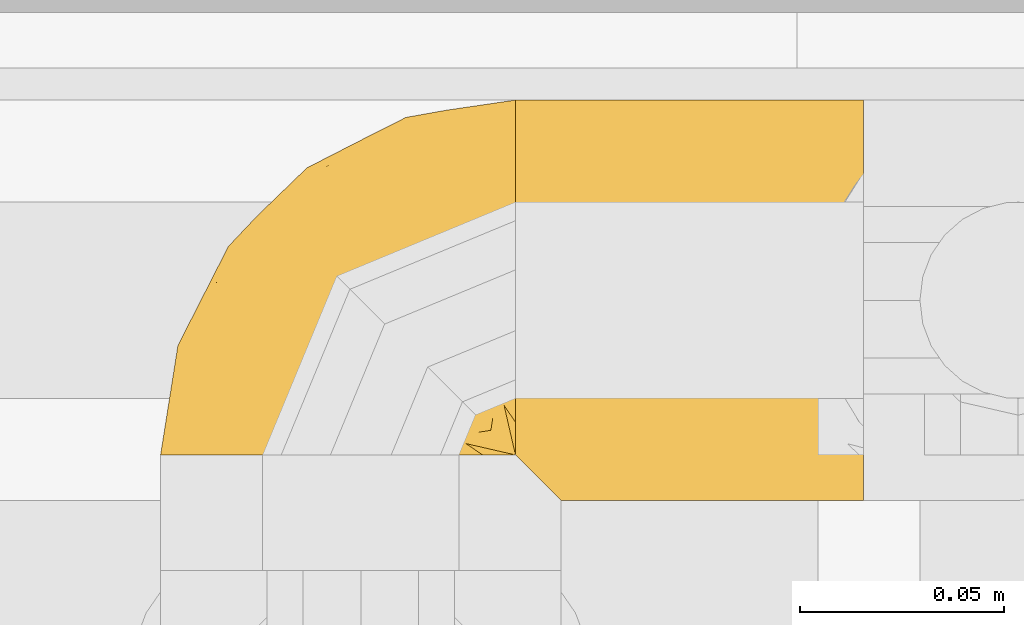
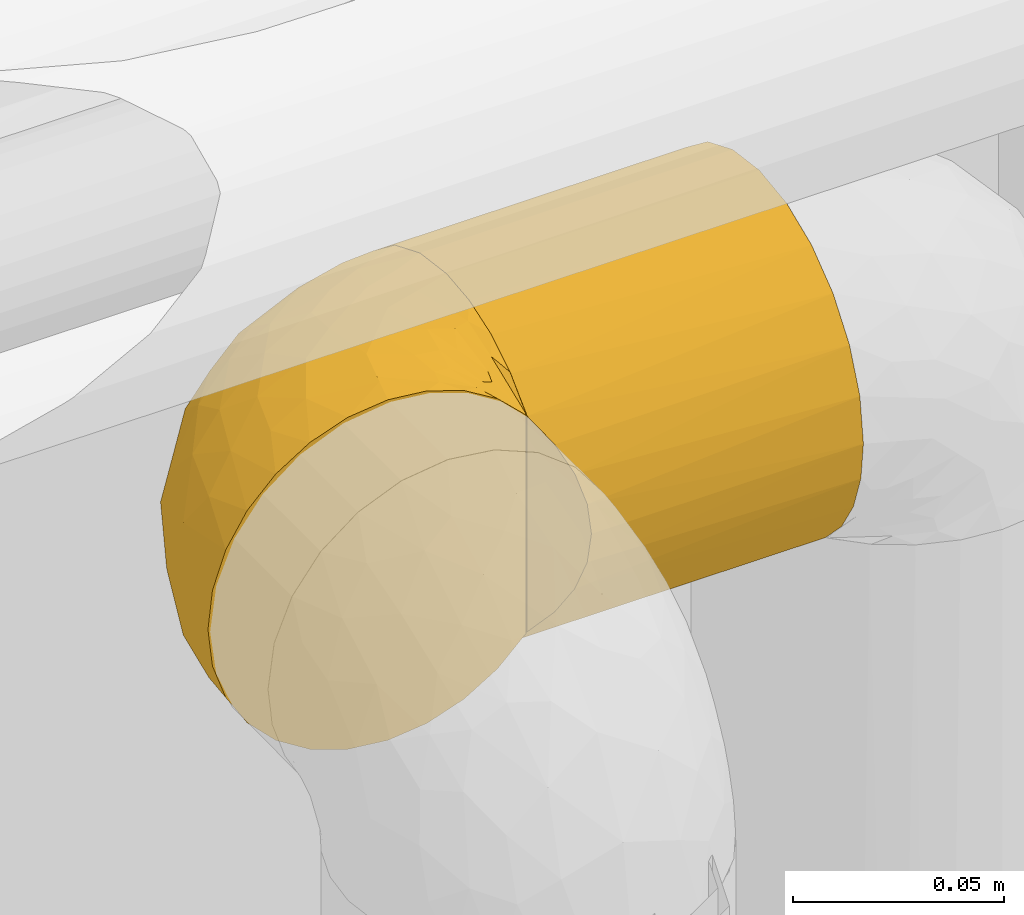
# One storey, part 52 of 94: 2 coverings.
"""IFC2X3 building model written with IfcOpenShell, lengths in millimetres."""

import ifcopenshell
import ifcopenshell.guid

model = None  # the IFC model being written
_history = None  # IfcOwnerHistory: only IFC2X3 demands one
_inside = {}  # id of a spatial element -> (the spatial element, [elements in it])
_under = {}  # id of a project, library or spatial element -> (it, [spatial elements below it])
_declared = {}  # id of a project -> (the project, [libraries it declares])
_typed = {}  # id of a type object -> (the type object, [elements of that type])
_made_of = {}  # id of a material, layer set ... -> (it, [elements and type objects made of it])


def new_model(schema):
    """Start an empty IFC model of exactly this schema.

    Asked for "IFC4X3", IfcOpenShell would pick the latest addendum, in which some entities
    have other attributes; the version numbers below select the first issue.
    IFC2X3 requires an IfcOwnerHistory on every rooted entity: one is made here for all.
    """
    global model, _history
    if schema == "IFC4X3":
        model = ifcopenshell.file(schema_version=(4, 3, 0, 0))
    else:
        model = ifcopenshell.file(schema=schema)
    _inside.clear()
    _under.clear()
    _declared.clear()
    _typed.clear()
    _made_of.clear()
    _history = None
    if model.schema == "IFC2X3":
        org = make("IfcOrganization", Name="unknown")
        user = make(
            "IfcPersonAndOrganization",
            ThePerson=make("IfcPerson", FamilyName="unknown"),
            TheOrganization=org,
        )
        app = make(
            "IfcApplication",
            ApplicationDeveloper=org,
            Version="unknown",
            ApplicationFullName="unknown",
            ApplicationIdentifier="unknown",
        )
        _history = make(
            "IfcOwnerHistory",
            OwningUser=user,
            OwningApplication=app,
            ChangeAction="ADDED",
            CreationDate=0,
        )
    return model


def make(cls, **values):
    """One entity of the class cls with the attributes given. An attribute that is None is left unset."""
    return model.create_entity(
        cls, **{name: value for name, value in values.items() if value is not None}
    )


def entity(cls, *values):
    """Any entity or typed value of the class cls, its attributes in the order of the schema. None: left unset."""
    e = model.create_entity(cls)
    for i, value in enumerate(values):
        if value is not None:
            e[i] = value
    return e


def rooted(cls, **values):
    """An entity with a GlobalId (a new one), such as an element, a storey or a relation."""
    return make(cls, GlobalId=ifcopenshell.guid.new(), OwnerHistory=_history, **values)


def si_unit(unit_type, name, prefix=None):
    """IfcSIUnit, for example si_unit("LENGTHUNIT", "METRE", prefix="MILLI")."""
    return make("IfcSIUnit", UnitType=unit_type, Prefix=prefix, Name=name)


def converted_unit(unit_type, name, factor, base, dimensions=None, offset=None):
    """IfcConversionBasedUnit, such as the inch: factor (a typed value) times the base unit."""
    return make(
        "IfcConversionBasedUnit"
        if offset is None
        else "IfcConversionBasedUnitWithOffset",
        ConversionOffset=offset,
        Dimensions=None
        if dimensions is None
        else entity("IfcDimensionalExponents", *dimensions),
        UnitType=unit_type,
        Name=name,
        ConversionFactor=make(
            "IfcMeasureWithUnit", ValueComponent=factor, UnitComponent=base
        ),
    )


def derived_unit(unit_type, elements):
    """IfcDerivedUnit: a product of units, each with its exponent."""
    return make(
        "IfcDerivedUnit",
        Elements=[
            make("IfcDerivedUnitElement", Unit=unit, Exponent=power)
            for unit, power in elements
        ],
        UnitType=unit_type,
    )


def assignment(units):
    """IfcUnitAssignment: the units of a project."""
    return None if units is None else make("IfcUnitAssignment", Units=units)


def point(xyz):
    """IfcCartesianPoint."""
    return None if xyz is None else make("IfcCartesianPoint", Coordinates=xyz)


def direction(xyz):
    """IfcDirection."""
    return None if xyz is None else make("IfcDirection", DirectionRatios=xyz)


def frame(location, z_axis=None, x_axis=None):
    """IfcAxis2Placement3D, a coordinate frame: its origin and axes. An axis left out is left unset."""
    return make(
        "IfcAxis2Placement3D",
        Location=point(location),
        Axis=direction(z_axis),
        RefDirection=direction(x_axis),
    )


def origin():
    """The frame at (0, 0, 0) with its axes left unset."""
    return frame((0.0, 0.0, 0.0))


def place(relative_to, where):
    """IfcLocalPlacement: puts the frame where relative to a parent placement (None: the world)."""
    return make(
        "IfcLocalPlacement", PlacementRelTo=relative_to, RelativePlacement=where
    )


def context(
    kind, dimensions, precision=None, world=None, true_north=None, identifier=None
):
    """IfcGeometricRepresentationContext, for example the 3D "Model" context."""
    return make(
        "IfcGeometricRepresentationContext",
        ContextIdentifier=identifier,
        ContextType=kind,
        CoordinateSpaceDimension=dimensions,
        Precision=precision,
        WorldCoordinateSystem=world,
        TrueNorth=true_north,
    )


def subcontext(parent, identifier, kind, view, scale=None):
    """IfcGeometricRepresentationSubContext, for example "Body" below "Model"."""
    return make(
        "IfcGeometricRepresentationSubContext",
        ContextIdentifier=identifier,
        ContextType=kind,
        ParentContext=parent,
        TargetScale=scale,
        TargetView=view,
    )


def project(units=None, contexts=None):
    """IfcProject with its units and contexts."""
    return rooted(
        "IfcProject",
        Name="project",
        RepresentationContexts=contexts,
        UnitsInContext=assignment(units),
    )


def spatial(cls, under=None, at=None, **own):
    """A site, building, storey or space (cls), placed at a placement, below another one or the project."""
    s = rooted(cls, ObjectPlacement=at, **own)
    if under is not None:
        _under.setdefault(under.id(), (under, []))[1].append(s)
    return s


def faces_of(points, faces, orient=None, outer=None):
    """IfcFace entities. A face is a list of loops; a loop is a list of indices into points, from 0.

    orient and outer hold one flag for each loop. By default every Orientation is true, the
    first loop of a face is its IfcFaceOuterBound and the others are IfcFaceBound.
    """
    made = []
    for i, loops in enumerate(faces):
        bounds = []
        for j, loop in enumerate(loops):
            is_outer = j == 0 if outer is None else outer[i][j]
            bounds.append(
                make(
                    "IfcFaceOuterBound" if is_outer else "IfcFaceBound",
                    Bound=make("IfcPolyLoop", Polygon=[points[k] for k in loop]),
                    Orientation=True if orient is None else orient[i][j],
                )
            )
        made.append(make("IfcFace", Bounds=bounds))
    return made


def faceted_brep(points, faces, orient=None, outer=None, voids=None):
    """IfcFacetedBrep: a solid bounded by flat faces; with voids (closed shells), ...WithVoids."""
    shared = [point(p) for p in points]
    hull = make("IfcClosedShell", CfsFaces=faces_of(shared, faces, orient, outer))
    if voids is None:
        return make("IfcFacetedBrep", Outer=hull)
    return make(
        "IfcFacetedBrepWithVoids",
        Outer=hull,
        Voids=[
            make(cls, CfsFaces=faces_of(shared, fs, o, b)) for cls, fs, o, b in voids
        ],
    )


def shape(context_of_items, identifier, shape_type, items):
    """IfcShapeRepresentation: the items that make up one representation, for example the "Body"."""
    return make(
        "IfcShapeRepresentation",
        ContextOfItems=context_of_items,
        RepresentationIdentifier=identifier,
        RepresentationType=shape_type,
        Items=items,
    )


def material(Name=None, Category=None):
    """IfcMaterial."""
    return make("IfcMaterial", Name=Name, Category=Category)


def made_of(thing, what):
    """Note that an element or type object is made of a material, layer set ...; save() writes the relation."""
    if what is not None:
        _made_of.setdefault(what.id(), (what, []))[1].append(thing)
    return thing


def element(
    cls,
    number,
    at=None,
    inside=None,
    cuts=None,
    type_object=None,
    material=None,
    context=None,
    identifier="Body",
    shape_type=None,
    held_by="IfcProductDefinitionShape",
    body=None,
    shapes=None,
    **own,
):
    """One element of the class cls, such as IfcWall. Its Tag is "e" and its number.

    at: its placement. inside: the storey or other place that contains it. cuts: it is an
    opening in that element (IfcRelVoidsElement). A single representation is given by context,
    identifier, shape_type and body (its items); several are given by shapes. held_by: the class
    of the entity that holds the representations. save() writes the other relations.
    """
    e = rooted(cls, Tag="e%d" % number, ObjectPlacement=at, **own)
    if body is not None:
        shapes = [shape(context, identifier, shape_type, body)]
    if shapes is not None:
        e.Representation = make(held_by, Representations=shapes)
    if inside is not None:
        _inside.setdefault(inside.id(), (inside, []))[1].append(e)
    if cuts is not None:
        rooted(
            "IfcRelVoidsElement", RelatingBuildingElement=cuts, RelatedOpeningElement=e
        )
    if type_object is not None:
        _typed.setdefault(type_object.id(), (type_object, []))[1].append(e)
    return made_of(e, material)


def aggregate(whole, parts):
    """IfcRelAggregates: a whole, such as a stair, and the parts it consists of."""
    return rooted("IfcRelAggregates", RelatingObject=whole, RelatedObjects=parts)


def save(model, path):
    """Write the relations noted so far, then the file.

    IfcRelAggregates (storeys below a building ...), IfcRelContainedInSpatialStructure (elements
    in a storey), IfcRelDefinesByType, IfcRelAssociatesMaterial and IfcRelDeclares: one each for
    every whole, place, type object, material and project.
    """
    for whole, parts in _under.values():
        aggregate(whole, parts)
    for where, things in _inside.values():
        rooted(
            "IfcRelContainedInSpatialStructure",
            RelatedElements=things,
            RelatingStructure=where,
        )
    for kind, things in _typed.values():
        rooted("IfcRelDefinesByType", RelatedObjects=things, RelatingType=kind)
    for what, things in _made_of.values():
        rooted("IfcRelAssociatesMaterial", RelatedObjects=things, RelatingMaterial=what)
    for by, libraries in _declared.values():
        rooted("IfcRelDeclares", RelatingContext=by, RelatedDefinitions=libraries)
    model.write(path)


model = new_model("IFC2X3")

# Units and contexts
model_context = context("Model", 3, precision=0.01, world=origin(), true_north=direction((6.123031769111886e-17, 1.0)))
body_context = subcontext(model_context, "Body", "Model", "MODEL_VIEW")
ifc_project = project(units=[si_unit("LENGTHUNIT", "METRE", prefix="MILLI"), si_unit("AREAUNIT", "SQUARE_METRE"), si_unit("VOLUMEUNIT", "CUBIC_METRE"), converted_unit("PLANEANGLEUNIT", "DEGREE", entity("IfcRatioMeasure", 0.017453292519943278), si_unit("PLANEANGLEUNIT", "RADIAN"), dimensions=[0, 0, 0, 0, 0, 0, 0]), si_unit("MASSUNIT", "GRAM", prefix="KILO"), derived_unit("MASSDENSITYUNIT", [(si_unit("MASSUNIT", "GRAM", prefix="KILO"), 1), (si_unit("LENGTHUNIT", "METRE"), -3)]), derived_unit("IONCONCENTRATIONUNIT", [(si_unit("MASSUNIT", "GRAM", prefix="KILO"), 1), (si_unit("LENGTHUNIT", "METRE"), -3)]), derived_unit("MOMENTOFINERTIAUNIT", [(si_unit("LENGTHUNIT", "METRE"), 4)]), si_unit("TIMEUNIT", "SECOND"), si_unit("FREQUENCYUNIT", "HERTZ"), si_unit("THERMODYNAMICTEMPERATUREUNIT", "DEGREE_CELSIUS"), derived_unit("THERMALTRANSMITTANCEUNIT", [(si_unit("MASSUNIT", "GRAM", prefix="KILO"), 1), (si_unit("THERMODYNAMICTEMPERATUREUNIT", "KELVIN"), -1), (si_unit("TIMEUNIT", "SECOND"), -3)]), derived_unit("THERMALCONDUCTANCEUNIT", [(si_unit("MASSUNIT", "GRAM", prefix="KILO"), 1), (si_unit("THERMODYNAMICTEMPERATUREUNIT", "KELVIN"), -1), (si_unit("TIMEUNIT", "SECOND"), -3), (si_unit("LENGTHUNIT", "METRE"), 1)]), derived_unit("VOLUMETRICFLOWRATEUNIT", [(si_unit("LENGTHUNIT", "METRE"), 3), (si_unit("TIMEUNIT", "SECOND"), -1)]), derived_unit("MASSFLOWRATEUNIT", [(si_unit("MASSUNIT", "GRAM", prefix="KILO"), 1), (si_unit("TIMEUNIT", "SECOND"), -1)]), derived_unit("ROTATIONALFREQUENCYUNIT", [(si_unit("TIMEUNIT", "SECOND"), -1)]), si_unit("ELECTRICCURRENTUNIT", "AMPERE"), si_unit("ELECTRICVOLTAGEUNIT", "VOLT"), si_unit("POWERUNIT", "WATT"), si_unit("FORCEUNIT", "NEWTON", prefix="KILO"), si_unit("ILLUMINANCEUNIT", "LUX"), si_unit("LUMINOUSFLUXUNIT", "LUMEN"), si_unit("LUMINOUSINTENSITYUNIT", "CANDELA"), derived_unit("USERDEFINED", [(si_unit("MASSUNIT", "GRAM", prefix="KILO"), -1), (si_unit("LENGTHUNIT", "METRE"), -2), (si_unit("TIMEUNIT", "SECOND"), 3), (si_unit("LUMINOUSFLUXUNIT", "LUMEN"), 1)]), derived_unit("USERDEFINED", [(si_unit("MASSUNIT", "GRAM", prefix="KILO"), 1), (si_unit("TIMEUNIT", "SECOND"), -3), (si_unit("LENGTHUNIT", "METRE"), 3), (si_unit("ELECTRICCURRENTUNIT", "AMPERE"), -2)]), derived_unit("SOUNDPOWERUNIT", [(si_unit("MASSUNIT", "GRAM", prefix="KILO"), 1), (si_unit("TIMEUNIT", "SECOND"), -3), (si_unit("LENGTHUNIT", "METRE"), 2)]), derived_unit("SOUNDPRESSUREUNIT", [(si_unit("MASSUNIT", "GRAM", prefix="KILO"), 1), (si_unit("LENGTHUNIT", "METRE"), -1), (si_unit("TIMEUNIT", "SECOND"), -2)]), derived_unit("LINEARVELOCITYUNIT", [(si_unit("LENGTHUNIT", "METRE"), 1), (si_unit("TIMEUNIT", "SECOND"), -1)]), si_unit("PRESSUREUNIT", "PASCAL"), derived_unit("USERDEFINED", [(si_unit("MASSUNIT", "GRAM", prefix="KILO"), 1), (si_unit("LENGTHUNIT", "METRE"), -2), (si_unit("TIMEUNIT", "SECOND"), -2)]), derived_unit("LINEARFORCEUNIT", [(si_unit("MASSUNIT", "GRAM", prefix="KILO"), 1), (si_unit("TIMEUNIT", "SECOND"), -2)]), derived_unit("PLANARFORCEUNIT", [(si_unit("MASSUNIT", "GRAM", prefix="KILO"), 1), (si_unit("LENGTHUNIT", "METRE"), -1), (si_unit("TIMEUNIT", "SECOND"), -2)]), derived_unit("SPECIFICHEATCAPACITYUNIT", [(si_unit("THERMODYNAMICTEMPERATUREUNIT", "KELVIN"), -1), (si_unit("LENGTHUNIT", "METRE"), 2), (si_unit("TIMEUNIT", "SECOND"), -2)]), derived_unit("HEATINGVALUEUNIT", [(si_unit("LENGTHUNIT", "METRE"), 2), (si_unit("TIMEUNIT", "SECOND"), -2)]), derived_unit("VAPORPERMEABILITYUNIT", [(si_unit("LENGTHUNIT", "METRE"), -1), (si_unit("TIMEUNIT", "SECOND"), 1)]), derived_unit("DYNAMICVISCOSITYUNIT", [(si_unit("MASSUNIT", "GRAM", prefix="KILO"), 1), (si_unit("TIMEUNIT", "SECOND"), -1), (si_unit("LENGTHUNIT", "METRE"), -1)]), derived_unit("THERMALEXPANSIONCOEFFICIENTUNIT", [(si_unit("THERMODYNAMICTEMPERATUREUNIT", "KELVIN"), -1)]), derived_unit("MODULUSOFELASTICITYUNIT", [(si_unit("MASSUNIT", "GRAM", prefix="KILO"), 1), (si_unit("LENGTHUNIT", "METRE"), -1), (si_unit("TIMEUNIT", "SECOND"), -2)]), derived_unit("ISOTHERMALMOISTURECAPACITYUNIT", [(si_unit("LENGTHUNIT", "METRE"), 3), (si_unit("MASSUNIT", "GRAM", prefix="KILO"), -1)]), derived_unit("MOISTUREDIFFUSIVITYUNIT", [(si_unit("TIMEUNIT", "SECOND"), -1), (si_unit("LENGTHUNIT", "METRE"), 2)])], contexts=[model_context])

# Site, building, storey
site_placement = place(None, origin())
site = spatial("IfcSite", under=ifc_project, at=site_placement, Name="Default", CompositionType="ELEMENT")
building_placement = place(site_placement, origin())
building = spatial("IfcBuilding", under=site, at=building_placement, CompositionType="ELEMENT")
storey_placement = place(building_placement, origin())
storey = spatial("IfcBuildingStorey", under=building, at=storey_placement, Name="Niveau 0", CompositionType="ELEMENT", Elevation=0.0)

# Coverings
ifc_material = material(Name="Isolation - Laine minérale")
covering_1_placement = place(storey_placement, frame((-7222.89113779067, 9987.250352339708, 2199.2547277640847)))
element("IfcCovering", 1, at=covering_1_placement, inside=storey, material=ifc_material, Name="Isolation des canalisations:Laine minérale", ObjectType="Isolation des canalisations:Laine minérale", PredefinedType="INSULATION", context=body_context, shape_type="Brep", body=[
    faceted_brep([(29.41213456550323, 1.5952722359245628, 95.02415814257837), (20.093252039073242, 1.5952722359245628, 89.16631019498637), (12.312548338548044, 1.5952722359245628, 81.38263886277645), (6.459227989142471, 1.5952722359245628, 72.06354573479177), (2.826140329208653, 1.5952722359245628, 61.67593083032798), (1.5952722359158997, 1.5952722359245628, 50.74527223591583), (2.828812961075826, 1.5952722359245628, 39.80290363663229), (6.466386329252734, 1.5952722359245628, 29.4121345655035), (12.324234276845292, 1.5952722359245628, 20.093252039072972), (20.107905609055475, 1.5952722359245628, 12.312548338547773), (29.426998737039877, 1.5952722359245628, 6.459227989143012), (39.814613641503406, 1.5952722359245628, 2.826140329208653), (50.74527223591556, 1.5952722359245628, 1.5952722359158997), (61.40435822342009, 1.5952722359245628, 2.765001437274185), (71.55257335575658, 1.5952722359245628, 6.216868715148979), (80.70896636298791, 1.5952722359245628, 11.785042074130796), (88.4316528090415, 1.5952722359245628, 19.194373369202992), (88.4316528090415, 1.5952722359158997, 21.638642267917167), (88.4316528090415, 1.5952722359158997, 23.415694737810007), (88.43165280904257, 1.5952722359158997, 25.192747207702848), (88.4316528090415, 1.5952722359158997, 26.692340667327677), (88.4316528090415, 1.5952722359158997, 28.191934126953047), (88.43165280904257, 1.5952722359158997, 31.191121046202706), (88.4316528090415, 1.5952722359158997, 34.19030796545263), (88.43165280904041, 1.5952722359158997, 37.18949488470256), (88.4316528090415, 1.5952722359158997, 40.18868180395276), (88.4316528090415, 1.5952722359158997, 41.688275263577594), (88.4316528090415, 1.5952722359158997, 43.18786872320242), (88.4316528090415, 1.5952722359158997, 45.6321376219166), (88.4316528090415, 1.5952722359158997, 48.07640652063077), (88.4316528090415, 1.5952722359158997, 50.52067541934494), (88.4316528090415, 1.5952722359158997, 52.96494431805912), (88.4316528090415, 1.5952722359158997, 55.40921321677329), (88.4316528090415, 1.5952722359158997, 57.853482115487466), (88.4316528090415, 1.5952722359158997, 60.29775101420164), (88.4316528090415, 1.5952722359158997, 62.742019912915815), (88.4316528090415, 1.5952722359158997, 65.18628881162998), (88.4316528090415, 1.5952722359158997, 67.63055771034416), (88.4316528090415, 1.5952722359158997, 70.07482660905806), (88.43165280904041, 1.5952722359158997, 72.5190955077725), (88.4316528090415, 1.5952722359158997, 74.9633644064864), (88.4316528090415, 1.5952722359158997, 77.40763330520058), (88.4316528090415, 1.5952722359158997, 79.85190220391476), (88.4316528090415, 1.5952722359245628, 82.29617110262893), (80.69235262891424, 1.5952722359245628, 89.71827412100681), (71.53113811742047, 1.5952722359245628, 95.28368576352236), (61.3839004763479, 1.5952722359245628, 98.7300832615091), (50.74527223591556, 1.5952722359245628, 99.89527223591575), (39.80290363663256, 1.5952722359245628, 98.6617315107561), (88.74527223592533, 1.908891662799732, 19.194373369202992), (88.74527223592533, 9.641963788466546, 11.777056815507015), (88.74527223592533, 18.798688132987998, 6.211862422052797), (88.74527223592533, 28.94385431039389, 2.7632985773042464), (88.74527223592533, 39.59527223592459, 1.5952722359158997), (88.74527223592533, 52.31622830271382, 3.2700178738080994), (88.74527223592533, 64.1702722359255, 8.180123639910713), (88.74527223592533, 74.34957053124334, 15.990973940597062), (88.74527223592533, 82.16042083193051, 26.17027223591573), (88.74527223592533, 87.07052659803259, 38.02431616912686), (88.74527223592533, 88.74527223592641, 50.74527223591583), (88.74527223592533, 87.07052659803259, 63.46622830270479), (88.74527223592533, 82.16042083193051, 75.32027223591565), (88.74527223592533, 74.34957053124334, 85.49957053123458), (88.74527223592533, 64.1702722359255, 93.31042083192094), (88.74527223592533, 52.31622830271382, 98.22052659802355), (88.74527223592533, 39.59527223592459, 99.89527223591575), (88.74527223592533, 28.94385431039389, 98.7272458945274), (88.74527223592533, 18.798688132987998, 95.27868204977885), (88.74527223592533, 9.641963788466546, 89.7134876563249), (88.74527223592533, 1.908891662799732, 82.29617110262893), (88.74527223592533, 1.908891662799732, 79.85190220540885), (88.74527223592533, 1.908891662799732, 78.35230874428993), (88.74527223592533, 1.908891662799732, 76.38037756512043), (88.74527223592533, 1.908891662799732, 74.40844638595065), (88.74527223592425, 1.908891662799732, 72.43651520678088), (88.74527223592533, 1.908891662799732, 70.46458402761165), (88.74527223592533, 1.908891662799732, 68.49265284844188), (88.74527223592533, 1.908891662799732, 66.52072166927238), (88.74527223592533, 1.908891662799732, 64.54879049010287), (88.74527223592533, 1.908891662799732, 62.57685931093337), (88.74527223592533, 1.908891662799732, 60.60492813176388), (88.74527223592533, 1.908891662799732, 58.632996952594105), (88.74527223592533, 1.908891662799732, 56.66106577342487), (88.74527223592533, 1.908891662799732, 54.6891345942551), (88.74527223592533, 1.908891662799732, 52.71720341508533), (88.74527223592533, 1.908891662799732, 50.7452722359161), (88.74527223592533, 1.908891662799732, 48.773341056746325), (88.74527223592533, 1.908891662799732, 46.80140987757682), (88.74527223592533, 1.908891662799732, 44.82947869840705), (88.74527223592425, 1.908891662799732, 42.85754751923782), (88.74527223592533, 1.908891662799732, 40.88561634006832), (88.74527223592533, 1.908891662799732, 38.913685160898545), (88.74527223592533, 1.908891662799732, 36.94175398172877), (88.74527223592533, 1.908891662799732, 34.96982280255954), (88.74527223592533, 1.908891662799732, 31.970635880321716), (88.74527223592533, 1.908891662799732, 28.971448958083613), (88.74527223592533, 1.908891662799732, 26.527180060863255), (88.74527223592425, 1.908891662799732, 24.082911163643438), (88.74527223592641, 1.908891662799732, 21.63864226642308), (88.53090125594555, 1.8241875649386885, 53.75333970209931), (88.52210831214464, 1.8156242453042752, 51.832765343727), (88.52122178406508, 1.8147227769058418, 61.47290163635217), (88.52777998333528, 1.8212241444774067, 63.56282540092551), (88.5409253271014, 1.8331787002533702, 48.00102702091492), (88.53506454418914, 1.828016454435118, 77.24999397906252), (88.49130573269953, 1.7792781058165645, 80.69913834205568), (88.5181029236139, 1.8114926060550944, 42.43807145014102), (88.52350981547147, 1.817034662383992, 22.860776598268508), (88.52548149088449, 1.81898896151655, 24.700216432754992), (88.5165327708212, 1.8098308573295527, 71.37008955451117), (88.52674320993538, 1.820221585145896, 73.40383885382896), (88.50469006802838, 1.7964621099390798, 44.41000264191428), (88.52964682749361, 1.8230063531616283, 37.92771907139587), (88.53317608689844, 1.826296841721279, 39.81308540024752), (88.51585328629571, 1.8091041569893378, 35.95578792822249), (88.52914218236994, 1.8225274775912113, 49.75930651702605), (88.52350981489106, 1.817034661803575, 79.10210557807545), (88.52591800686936, 1.8194169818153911, 21.027574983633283), (88.53664906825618, 1.8294378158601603, 55.67510065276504), (88.5374788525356, 1.8301744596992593, 67.50668767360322), (88.53273195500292, 1.825888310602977, 65.61454699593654), (88.53426299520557, 1.8272900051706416, 34.10458092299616), (88.53370000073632, 1.8267767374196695, 57.55217518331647), (88.53493173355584, 1.8278964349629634, 75.39441218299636), (88.52350981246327, 1.8170346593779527, 82.29617110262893), (88.4948797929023, 1.747915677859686, 82.29617110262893), (88.46624977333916, 1.6787966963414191, 82.2961711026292), (88.52350981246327, 1.8170346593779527, 19.194373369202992), (88.59262879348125, 1.8456646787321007, 19.194373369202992), (88.66174777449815, 1.8742946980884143, 19.194373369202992), (88.51000647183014, 1.8026539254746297, 32.212157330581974), (88.53042484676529, 1.8237404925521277, 69.43559223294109), (88.52246762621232, 1.8159875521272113, 46.24828797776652), (88.52470424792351, 1.8182226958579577, 59.49061335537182), (88.50579329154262, 1.7977740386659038, 29.419252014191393), (88.52744143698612, 1.8208977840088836, 27.442137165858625), (88.6617477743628, 1.8742946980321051, 82.29617110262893), (88.59262879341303, 1.8456646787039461, 82.29617110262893), (88.46624977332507, 1.6787966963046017, 19.194373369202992), (88.49487979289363, 1.7479156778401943, 19.194373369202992), (85.22080157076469, 23.495219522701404, 4.210283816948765), (85.93611072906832, 13.747756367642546, 8.74417984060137), (81.07807843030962, 22.409779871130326, 4.210283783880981), (83.13289242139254, 10.562522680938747, 9.955583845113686), (79.24527223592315, 37.049754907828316, 1.5952722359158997), (81.28890223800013, 37.59734391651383, 1.5952722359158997), (55.83630689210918, 20.595272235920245, 1.5952722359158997), (66.39553001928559, 16.02014974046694, 2.93549782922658), (67.94040403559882, 9.26167767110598, 4.213452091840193), (69.74527223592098, 34.50423757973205, 1.5952722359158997), (80.67378389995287, 9.667897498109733, 9.405305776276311), (79.78892094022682, 7.2029124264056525, 9.963487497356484), (74.32109358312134, 23.944746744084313, 2.935641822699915), (66.85470593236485, 5.119390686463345, 4.213452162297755), (76.60336361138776, 4.4028932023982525, 8.750654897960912), (79.64911936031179, 17.541506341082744, 5.69062779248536), (52.743200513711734, 9.051642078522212, 1.5952722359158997), (53.29078956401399, 11.095272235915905, 1.5952722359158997), (73.61168493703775, 16.728859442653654, 4.482619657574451), (62.79078956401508, 27.549754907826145, 1.5952722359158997), (73.87988529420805, 12.071559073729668, 5.766057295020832), (75.3291367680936, 47.623950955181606, 2.6117250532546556), (65.91074185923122, 44.00144112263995, 2.657531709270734), (53.84761415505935, 58.899698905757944, 11.131578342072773), (59.13651173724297, 72.66771487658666, 20.82464790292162), (71.16612245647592, 67.20155656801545, 11.751954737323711), (67.0054527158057, 54.07984229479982, 5.336592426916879), (78.8805128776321, 57.54110754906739, 5.336592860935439), (37.51978749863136, 72.10110329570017, 50.74527223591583), (61.8144411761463, 84.47984763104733, 50.74527223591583), (53.875201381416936, 80.24801351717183, 40.33973954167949), (25.78494399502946, 13.851436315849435, 9.12424327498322), (36.24418276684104, 15.165285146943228, 4.351045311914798), (29.562882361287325, 60.77765845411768, 32.64695426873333), (30.770681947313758, 55.38583609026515, 23.76890934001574), (15.292222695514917, 43.89737524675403, 35.61531809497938), (71.31385843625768, 86.12648113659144, 41.696133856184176), (47.24102741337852, 73.23168363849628, 30.50981773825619), (43.50389303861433, 64.74738573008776, 21.748430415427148), (75.28985257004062, 77.40373146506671, 20.824647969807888), (67.10273039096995, 82.14716981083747, 31.93638275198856), (37.099200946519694, 52.829115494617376, 15.984346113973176), (44.51517687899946, 48.878965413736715, 9.509703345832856), (33.70477633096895, 40.607220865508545, 11.405769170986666), (44.05169469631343, 28.769953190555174, 3.7235321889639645), (30.04408126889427, 27.448445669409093, 9.124242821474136), (18.31233818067, 19.800365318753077, 15.984347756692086), (5.8606968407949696, 28.52610329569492, 50.74527223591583), (7.041406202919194, 22.71562192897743, 34.50535109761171), (25.61446965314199, 42.31748570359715, 18.53593481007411), (15.886915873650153, 33.68382770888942, 24.588194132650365), (10.600409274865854, 16.806973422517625, 24.588193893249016), (38.50378416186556, 71.07858054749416, 39.07585882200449), (25.345180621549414, 60.332491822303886, 42.346184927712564), (53.16350413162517, 33.37332146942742, 2.5632520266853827), (18.239441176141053, 52.82075697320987, 50.74527223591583), (52.69469876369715, 43.46542968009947, 4.722449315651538), (58.175892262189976, 79.20017463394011, 69.55416102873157), (71.7009127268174, 86.24488809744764, 59.58510784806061), (54.574333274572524, 80.83807017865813, 59.865425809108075), (42.49805076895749, 72.52816019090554, 66.13789702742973), (75.06235489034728, 83.87397883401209, 69.55416221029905), (24.525141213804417, 35.798660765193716, 85.49332197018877), (25.786342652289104, 48.02046276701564, 78.98858976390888), (15.878231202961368, 33.68736739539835, 76.88743080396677), (37.089792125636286, 52.83844921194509, 85.49294527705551), (35.71336208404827, 59.75598123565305, 78.28666517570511), (36.23150879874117, 15.17001623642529, 97.1347911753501), (70.53804152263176, 45.55141709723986, 98.95303587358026), (69.74527223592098, 34.50423757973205, 99.89527223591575), (79.24527223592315, 37.049754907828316, 99.89527223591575), (7.036299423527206, 22.71467774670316, 66.97173870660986), (69.24086116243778, 76.07714087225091, 80.66589652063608), (30.03051209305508, 27.454651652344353, 92.35692696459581), (25.770245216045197, 13.854008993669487, 92.35692651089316), (76.87540408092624, 68.47065883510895, 89.73858944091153), (74.00473445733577, 56.45843349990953, 96.15395178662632), (48.41047025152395, 68.0885450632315, 79.62483877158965), (62.62553049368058, 64.29272071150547, 89.73859028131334), (31.2207767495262, 66.01125638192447, 59.508159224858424), (29.560345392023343, 60.78019542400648, 68.8345286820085), (79.82666983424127, 48.01911236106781, 99.01263503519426), (10.591274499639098, 16.809109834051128, 76.887431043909), (15.287247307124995, 43.900853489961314, 65.85652255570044), (18.299506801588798, 19.803681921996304, 85.49294363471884), (44.04987097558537, 28.78672684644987, 97.76388503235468), (55.83630689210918, 20.595272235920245, 99.89527223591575), (54.23536248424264, 35.48506655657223, 98.78930951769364), (62.79078956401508, 27.549754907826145, 99.89527223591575), (52.74320051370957, 9.051642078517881, 99.89527223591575), (53.290789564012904, 11.095272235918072, 99.89527223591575), (48.41211537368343, 53.16291239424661, 91.50386042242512), (64.14304703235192, 52.0530845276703, 96.42683125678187), (40.10640265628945, 41.40103739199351, 93.1499194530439), (62.89073418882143, 40.721221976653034, 99.08337182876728), (47.67277833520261, 60.91677547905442, 86.09107557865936), (55.38955823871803, 45.94061161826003, 96.67816905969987), (81.07807840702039, 22.409778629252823, 97.28026029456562), (78.26566497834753, 16.464254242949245, 95.72662397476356), (74.3207291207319, 23.943292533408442, 98.55465842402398), (85.22080145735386, 23.49521891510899, 97.2802604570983), (85.93611080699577, 13.747755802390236, 92.74636428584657), (83.13257230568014, 10.564867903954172, 91.53641117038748), (82.6819800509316, 7.656624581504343, 90.11275627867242), (73.61706381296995, 16.72348133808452, 97.00519514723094), (79.75777141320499, 7.216517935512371, 91.54965419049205), (67.91845358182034, 9.263185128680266, 97.28427045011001), (66.83334757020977, 5.119593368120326, 97.284270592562), (76.58449008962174, 4.4058785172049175, 92.75147496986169), (66.39770760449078, 16.01862728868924, 98.55441347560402), (72.78382599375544, 10.692146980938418, 95.80583125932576)], [[[0, 1, 2, 3, 4, 5, 6, 7, 8, 9, 10, 11, 12, 13, 14, 15, 16, 17, 18, 19, 20, 21, 22, 23, 24, 25, 26, 27, 28, 29, 30, 31, 32, 33, 34, 35, 36, 37, 38, 39, 40, 41, 42, 43, 44, 45, 46, 47, 48]], [[49, 50, 51, 52, 53, 54, 55, 56, 57, 58, 59, 60, 61, 62, 63, 64, 65, 66, 67, 68, 69, 70, 71, 72, 73, 74, 75, 76, 77, 78, 79, 80, 81, 82, 83, 84, 85, 86, 87, 88, 89, 90, 91, 92, 93, 94, 95, 96, 97, 98]], [[99, 100, 84]], [[101, 102, 35]], [[86, 103, 87]], [[72, 71, 104]], [[105, 70, 69]], [[27, 26, 106]], [[18, 107, 108]], [[109, 74, 110]], [[28, 27, 111]], [[25, 112, 113]], [[108, 97, 96]], [[114, 93, 92]], [[103, 86, 115]], [[97, 107, 98]], [[116, 71, 70]], [[107, 17, 117]], [[79, 102, 101]], [[99, 118, 32]], [[77, 119, 120]], [[121, 93, 114]], [[112, 91, 113]], [[89, 111, 106]], [[40, 39, 110]], [[107, 97, 108]], [[32, 118, 122]], [[92, 91, 112]], [[37, 120, 119]], [[85, 115, 86]], [[70, 105, 116]], [[72, 123, 73]], [[105, 124, 125, 126, 43]], [[117, 17, 16]], [[41, 116, 42]], [[117, 127, 128, 129, 49]], [[110, 123, 40]], [[42, 116, 105]], [[121, 23, 130]], [[24, 114, 112]], [[114, 24, 23]], [[104, 123, 72]], [[92, 112, 114]], [[104, 116, 41]], [[24, 112, 25]], [[110, 73, 123]], [[36, 120, 37]], [[40, 123, 41]], [[75, 74, 109]], [[131, 76, 75]], [[119, 131, 37]], [[109, 110, 39]], [[109, 39, 38]], [[74, 73, 110]], [[123, 104, 41]], [[116, 104, 71]], [[26, 25, 113]], [[113, 90, 106]], [[88, 87, 132]], [[113, 106, 26]], [[77, 76, 119]], [[132, 111, 88]], [[106, 111, 27]], [[132, 28, 111]], [[88, 111, 89]], [[89, 106, 90]], [[113, 91, 90]], [[131, 119, 76]], [[38, 37, 131]], [[120, 36, 102]], [[131, 109, 38]], [[109, 131, 75]], [[79, 78, 102]], [[78, 120, 102]], [[78, 77, 120]], [[122, 81, 133]], [[36, 35, 102]], [[33, 122, 133]], [[80, 79, 101]], [[34, 101, 35]], [[132, 29, 28]], [[81, 80, 133]], [[29, 103, 115]], [[30, 29, 115]], [[87, 103, 132]], [[100, 115, 85]], [[31, 30, 100]], [[115, 100, 30]], [[32, 31, 99]], [[118, 82, 122]], [[100, 85, 84]], [[99, 83, 118]], [[82, 118, 83]], [[33, 32, 122]], [[83, 99, 84]], [[100, 99, 31]], [[34, 33, 133]], [[122, 82, 81]], [[133, 101, 34]], [[101, 133, 80]], [[134, 95, 94]], [[23, 121, 114]], [[132, 103, 29]], [[121, 94, 93]], [[94, 121, 130]], [[98, 107, 117]], [[108, 20, 19, 18]], [[21, 135, 134]], [[20, 135, 21]], [[134, 135, 95]], [[108, 96, 135]], [[108, 135, 20]], [[135, 96, 95]], [[134, 22, 21]], [[130, 22, 134]], [[42, 105, 43]], [[105, 69, 136, 137, 124]], [[98, 117, 49]], [[117, 16, 138, 139, 127]], [[18, 17, 107]], [[94, 130, 134]], [[22, 130, 23]], [[140, 141, 142]], [[143, 129, 128, 127]], [[52, 144, 145, 53]], [[146, 147, 148]], [[142, 149, 144]], [[150, 127, 151]], [[51, 140, 52]], [[142, 152, 149]], [[52, 140, 144]], [[129, 143, 141]], [[14, 13, 153]], [[148, 151, 154]], [[155, 141, 143]], [[151, 138, 154]], [[14, 153, 154]], [[16, 15, 138]], [[13, 12, 156, 157]], [[152, 155, 158]], [[159, 158, 147]], [[157, 148, 153]], [[14, 154, 15]], [[50, 49, 129]], [[50, 129, 141]], [[141, 51, 50]], [[160, 148, 147]], [[146, 148, 157]], [[138, 15, 154]], [[150, 158, 155]], [[151, 127, 139, 138]], [[141, 140, 51]], [[144, 140, 142]], [[157, 153, 13]], [[154, 153, 148]], [[149, 152, 159]], [[160, 147, 158]], [[147, 146, 159]], [[155, 152, 142]], [[159, 152, 158]], [[127, 150, 143]], [[160, 150, 151]], [[150, 160, 158]], [[148, 160, 151]], [[141, 155, 142]], [[155, 143, 150]], [[156, 12, 11]], [[161, 149, 162]], [[163, 164, 165]], [[166, 167, 161]], [[168, 169, 170]], [[55, 165, 56]], [[171, 172, 10]], [[173, 174, 175]], [[58, 176, 59]], [[173, 177, 178]], [[179, 57, 56]], [[55, 167, 165]], [[170, 180, 177]], [[57, 179, 180]], [[167, 55, 54]], [[181, 182, 183]], [[184, 146, 172]], [[172, 185, 184]], [[186, 185, 171]], [[186, 9, 8]], [[172, 146, 157, 156]], [[172, 11, 10]], [[173, 178, 174]], [[6, 187, 188]], [[189, 186, 190]], [[191, 186, 8]], [[175, 190, 188]], [[168, 192, 193]], [[189, 190, 174]], [[57, 180, 58]], [[8, 7, 191]], [[188, 7, 6]], [[6, 5, 187]], [[190, 191, 188]], [[159, 194, 162]], [[175, 187, 195]], [[177, 180, 164]], [[10, 9, 171]], [[176, 180, 170]], [[156, 11, 172]], [[163, 165, 166]], [[179, 165, 164]], [[54, 53, 145]], [[185, 189, 183]], [[184, 196, 194]], [[188, 191, 7]], [[186, 191, 190]], [[186, 171, 9]], [[172, 171, 185]], [[187, 175, 188]], [[193, 175, 195]], [[196, 163, 166]], [[163, 181, 178]], [[162, 166, 161]], [[184, 185, 183]], [[178, 177, 164]], [[177, 192, 170]], [[177, 173, 192]], [[176, 170, 169]], [[59, 176, 169]], [[58, 180, 176]], [[193, 192, 173]], [[168, 170, 192]], [[175, 193, 173]], [[168, 193, 195]], [[163, 178, 164]], [[184, 194, 146]], [[178, 181, 174]], [[189, 174, 181]], [[175, 174, 190]], [[183, 189, 181]], [[186, 189, 185]], [[182, 181, 163]], [[183, 182, 184]], [[163, 196, 182]], [[184, 182, 196]], [[165, 179, 56]], [[180, 179, 164]], [[161, 54, 145]], [[165, 167, 166]], [[54, 161, 167]], [[161, 145, 144, 149]], [[159, 162, 149]], [[196, 166, 162]], [[162, 194, 196]], [[146, 194, 159]], [[197, 198, 199]], [[59, 169, 198]], [[197, 199, 200]], [[198, 197, 201]], [[202, 203, 204]], [[61, 60, 201]], [[205, 206, 203]], [[0, 48, 207]], [[208, 209, 210]], [[187, 4, 211]], [[201, 212, 61]], [[213, 214, 207]], [[62, 215, 63]], [[63, 215, 216]], [[3, 211, 4]], [[217, 218, 212]], [[219, 220, 200]], [[216, 208, 221]], [[3, 2, 222]], [[63, 216, 64]], [[62, 61, 212]], [[211, 3, 222]], [[5, 4, 187]], [[217, 197, 200]], [[203, 223, 204]], [[2, 1, 224]], [[225, 213, 207]], [[204, 222, 224]], [[1, 0, 214]], [[204, 224, 202]], [[207, 226, 225]], [[227, 226, 228]], [[223, 211, 204]], [[214, 224, 1]], [[202, 224, 213]], [[48, 47, 229]], [[207, 229, 230, 226]], [[211, 223, 187]], [[218, 231, 232]], [[48, 229, 207]], [[205, 233, 231]], [[233, 213, 225]], [[217, 212, 197]], [[215, 212, 218]], [[228, 234, 227]], [[233, 205, 202]], [[208, 234, 209]], [[64, 221, 65]], [[235, 205, 231]], [[207, 214, 0]], [[224, 214, 213]], [[224, 222, 2]], [[211, 222, 204]], [[219, 223, 220]], [[187, 223, 195]], [[227, 233, 225]], [[234, 228, 209]], [[231, 233, 236]], [[221, 208, 210]], [[232, 208, 216]], [[65, 221, 210]], [[216, 221, 64]], [[233, 202, 213]], [[203, 202, 205]], [[205, 235, 206]], [[223, 203, 220]], [[200, 206, 217]], [[220, 203, 206]], [[232, 231, 236]], [[235, 218, 217]], [[212, 215, 62]], [[216, 215, 218]], [[218, 232, 216]], [[234, 232, 236]], [[232, 234, 208]], [[234, 236, 227]], [[233, 227, 236]], [[226, 227, 225]], [[198, 201, 60]], [[212, 201, 197]], [[59, 198, 60]], [[198, 169, 199]], [[169, 168, 199]], [[219, 200, 199]], [[219, 199, 168]], [[200, 220, 206]], [[168, 195, 219]], [[223, 219, 195]], [[218, 235, 231]], [[206, 235, 217]], [[66, 65, 210]], [[209, 237, 210]], [[238, 237, 239]], [[67, 240, 241]], [[242, 136, 241]], [[243, 137, 242]], [[243, 244, 245]], [[66, 240, 67]], [[136, 69, 68]], [[136, 68, 241]], [[246, 226, 230]], [[67, 241, 68]], [[210, 237, 240]], [[45, 247, 46]], [[209, 239, 237]], [[246, 247, 248]], [[46, 247, 230]], [[249, 250, 244]], [[239, 228, 244]], [[226, 246, 249]], [[250, 248, 245]], [[44, 43, 126]], [[237, 242, 241]], [[248, 45, 44]], [[44, 126, 248]], [[46, 230, 229, 47]], [[245, 126, 125]], [[126, 245, 248]], [[243, 124, 137]], [[210, 240, 66]], [[241, 240, 237]], [[248, 247, 45]], [[230, 247, 246]], [[226, 249, 228]], [[238, 239, 244]], [[239, 209, 228]], [[250, 249, 246]], [[228, 249, 244]], [[243, 242, 238]], [[136, 242, 137]], [[124, 243, 125]], [[125, 243, 245]], [[243, 238, 244]], [[237, 238, 242]], [[248, 250, 246]], [[244, 250, 245]]]),
])
covering_2_placement = place(storey_placement, frame((-7135.741137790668, 9976.120352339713, 2300.7252722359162)))
element("IfcCovering", 2, at=covering_2_placement, inside=storey, material=ifc_material, Name="Isolation des canalisations:Laine minérale", ObjectType="Isolation des canalisations:Laine minérale", PredefinedType="INSULATION", context=body_context, shape_type="Brep", body=[
    faceted_brep([(1.5952722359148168, 29.696487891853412, -95.12737949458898), (1.5952722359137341, 20.47495615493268, -89.4379998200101), (1.5952722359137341, 12.725272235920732, -81.86619226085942), (1.5952722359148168, 12.7252722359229, -19.584352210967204), (1.5952722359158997, 20.474956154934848, -12.012544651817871), (1.5952722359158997, 29.69648789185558, -6.3231649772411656), (1.5952722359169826, 39.94049838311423, -2.7935963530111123), (1.5952722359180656, 50.725272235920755, -1.595272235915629), (1.5952722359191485, 63.441051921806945, -3.2693363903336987), (1.5952722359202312, 75.29027223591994, -8.177444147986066), (1.5952722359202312, 85.46542839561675, -15.98511607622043), (1.5952722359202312, 93.27310032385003, -26.16027223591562), (1.595272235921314, 98.18120808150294, -38.00949255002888), (1.5952722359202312, 99.85527223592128, -50.72527223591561), (1.5952722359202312, 98.18120808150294, -63.44105192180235), (1.5952722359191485, 93.27310032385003, -75.29027223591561), (1.5952722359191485, 85.46542839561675, -85.4654283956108), (1.5952722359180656, 75.29027223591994, -93.27310032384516), (1.5952722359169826, 63.441051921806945, -98.18120808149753), (1.5952722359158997, 50.725272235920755, -99.85527223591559), (1.5952722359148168, 39.94049838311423, -98.65694811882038), (87.00045560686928, 3.2693363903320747, -38.00949255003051), (87.00045560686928, 1.5952722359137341, -50.72527223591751), (87.0004556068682, 2.7935963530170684, -61.510046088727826), (87.00045560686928, 6.323164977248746, -71.75405657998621), (87.00045560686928, 12.012544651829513, -80.9755883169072), (87.00045560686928, 19.584352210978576, -88.7252722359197), (87.00045560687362, 81.86619226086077, -88.72527223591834), (87.0004556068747, 89.43799982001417, -80.97558831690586), (87.00045560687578, 95.12737949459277, -71.75405657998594), (87.00045560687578, 98.65694811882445, -61.51004608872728), (87.00045560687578, 99.85527223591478, -50.72527223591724), (87.00045560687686, 98.18120808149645, -38.00949255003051), (87.00045560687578, 93.27310032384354, -26.160272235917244), (87.00045560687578, 85.46542839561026, -15.985116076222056), (87.00045560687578, 75.29027223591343, -8.177444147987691), (87.0004556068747, 63.44105192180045, -3.269336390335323), (87.00045560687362, 50.72527223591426, -1.5952722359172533), (87.00045560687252, 38.00949255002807, -3.269336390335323), (87.00045560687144, 26.16027223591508, -8.177444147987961), (87.00045560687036, 15.985116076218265, -15.985116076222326), (87.00045560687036, 8.177444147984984, -26.160272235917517), (82.24026445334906, 74.9187207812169, -93.48546338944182), (78.73655553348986, 67.26033951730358, -96.98917230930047), (76.59228320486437, 59.11608534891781, -99.13344463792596), (75.87045560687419, 50.72527223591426, -99.85527223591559), (76.59228320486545, 42.33445912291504, -99.13344463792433), (78.73655553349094, 34.190204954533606, -96.98917230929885), (82.24026445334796, 26.531823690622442, -93.48546338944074), (6.355463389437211, 7.965081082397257, -74.9187207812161), (9.859172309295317, 4.4613721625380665, -67.26033951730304), (12.003444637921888, 2.317099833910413, -59.116085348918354), (12.72527223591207, 1.5952722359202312, -50.72527223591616), (12.003444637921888, 2.317099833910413, -42.334459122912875), (9.859172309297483, 4.4613721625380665, -34.190204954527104), (6.3554633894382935, 7.965081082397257, -26.531823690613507)], [[[0, 1, 2, 3, 4, 5, 6, 7, 8, 9, 10, 11, 12, 13, 14, 15, 16, 17, 18, 19, 20]], [[21, 22, 23, 24, 25, 26, 27, 28, 29, 30, 31, 32, 33, 34, 35, 36, 37, 38, 39, 40, 41]], [[31, 30, 13]], [[29, 28, 15]], [[30, 29, 14]], [[14, 13, 30]], [[16, 15, 28]], [[14, 29, 15]], [[28, 27, 16]], [[27, 42, 17]], [[43, 44, 18]], [[42, 43, 17]], [[17, 43, 18]], [[19, 18, 44]], [[45, 19, 44]], [[27, 17, 16]], [[46, 47, 20]], [[48, 26, 1]], [[47, 48, 0]], [[45, 46, 19]], [[20, 19, 46]], [[47, 0, 20]], [[48, 1, 0]], [[26, 2, 1]], [[49, 25, 24]], [[50, 24, 23]], [[51, 23, 22]], [[49, 2, 25]], [[51, 50, 23]], [[52, 51, 22]], [[49, 24, 50]], [[25, 2, 26]], [[53, 52, 22]], [[53, 22, 21]], [[54, 21, 41]], [[54, 53, 21]], [[3, 55, 41]], [[54, 41, 55]], [[41, 40, 3]], [[4, 40, 39]], [[5, 39, 38]], [[6, 38, 37]], [[4, 39, 5]], [[5, 38, 6]], [[37, 7, 6]], [[40, 4, 3]], [[8, 7, 37, 36]], [[9, 8, 36, 35]], [[35, 34, 10, 9]], [[12, 11, 33, 32]], [[13, 12, 32, 31]], [[34, 33, 11, 10]], [[2, 49, 50, 51, 52, 53, 54, 55, 3]], [[46, 45, 44, 43, 42, 27, 26, 48, 47]]]),
])

save(model, "model.ifc")
